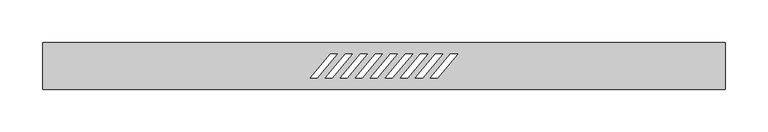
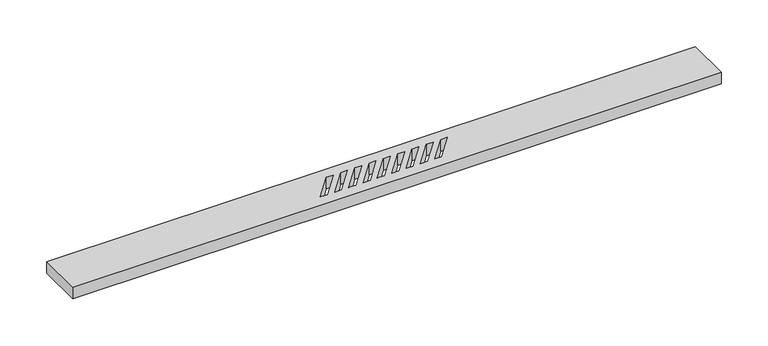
"""IFC4 building model written with IfcOpenShell, lengths in millimetres: sanitary terminal geometry, PF_UN_ShowerDrain S+_ACO : watertrap H=30."""

from ifc_helpers import new_model, si_unit, frame, origin, place, context, project, spatial, polyline, outline, extrude, source, transform, mapped, element, save


def sanitary_terminal_4bfb4d3e(model_context):
    return source(origin(), model_context, "Body", "SweptSolid", [
        extrude(outline(polyline([(400.0, 27.5), (400.0, -27.5), (-400.0, -27.5), (-400.0, 27.5), (400.0, 27.5)]), holes=[polyline([(7.3049166, 14.0), (-16.1898731, -14.0), (-7.7047257, -14.0), (15.7900639, 14.0), (7.3049166, 14.0)]), polyline([(24.927915, 14.0), (1.4331253, -14.0), (9.9182727, -14.0), (33.4130624, 14.0), (24.927915, 14.0)]), polyline([(42.5509134, 14.0), (19.0561237, -14.0), (27.5412711, -14.0), (51.0360608, 14.0), (42.5509134, 14.0)]), polyline([(60.1739118, 14.0), (36.6791221, -14.0), (45.1642695, -14.0), (68.6590592, 14.0), (60.1739118, 14.0)]), polyline([(77.7969102, 14.0), (54.3021205, -14.0), (62.7872679, -14.0), (86.2820576, 14.0), (77.7969102, 14.0)]), polyline([(-1.8329345, 14.0), (-10.3180818, 14.0), (-33.8128715, -14.0), (-25.3277241, -14.0), (-1.8329345, 14.0)]), polyline([(-19.4559329, 14.0), (-27.9410802, 14.0), (-51.4358699, -14.0), (-42.9507225, -14.0), (-19.4559329, 14.0)]), polyline([(-37.0775765, 14.0), (-45.5627238, 14.0), (-69.0575135, -14.0), (-60.5723661, -14.0), (-37.0775765, 14.0)]), polyline([(-54.7005749, 14.0), (-63.1857223, 14.0), (-86.6805119, -14.0), (-78.1953645, -14.0), (-54.7005749, 14.0)])]), frame((0.0, 0.0, -15.0), z_axis=(0.0, 0.0, 1.0), x_axis=(1.0, 0.0, 0.0)), (0.0, 0.0, 1.0), 15.0),
    ])


if __name__ == "__main__":
    model = new_model("IFC4")
    model_context = context("Model", 3, world=origin())
    ifc_project = project(units=[si_unit("LENGTHUNIT", "METRE", prefix="MILLI")], contexts=[model_context])
    site = spatial("IfcSite", under=ifc_project)
    building = spatial("IfcBuilding", under=site)
    placement = place(None, origin())
    sanitary_terminal_shape = sanitary_terminal_4bfb4d3e(model_context)
    element("IfcSanitaryTerminal", 1, ObjectType="PF_UN_ShowerDrain S+_ACO : watertrap H=30", at=placement, inside=building, context=model_context, shape_type="MappedRepresentation", body=[
        mapped(sanitary_terminal_shape, transform((0.0, 0.0, 0.0), x_axis=(1.0, 0.0, 0.0), y_axis=(0.0, 1.0, 0.0), z_axis=(0.0, 0.0, 1.0))),
    ])
    save(model, "model.ifc")
